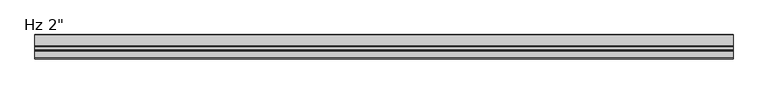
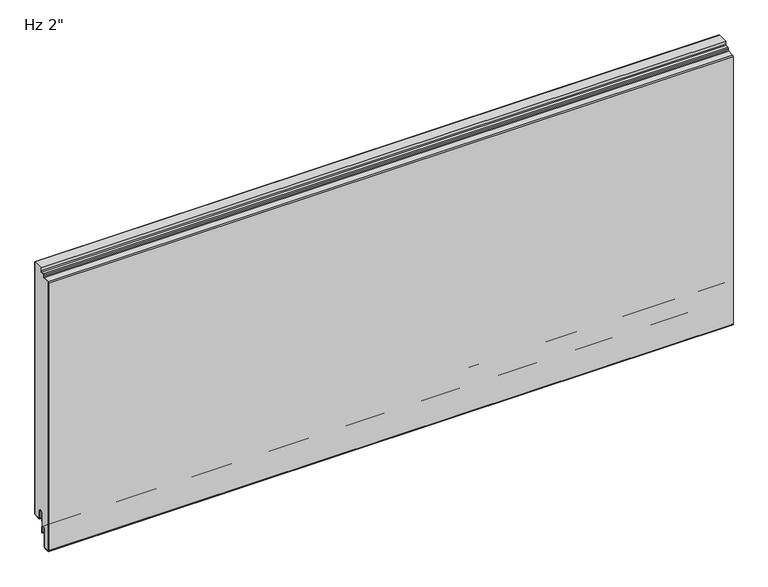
"""IFC4 building model written with IfcOpenShell, lengths in millimetres: plate geometry."""

import ifcopenshell
import ifcopenshell.guid

model = None  # the IFC model being written
_history = None  # IfcOwnerHistory: only IFC2X3 demands one
_inside = {}  # id of a spatial element -> (the spatial element, [elements in it])
_under = {}  # id of a project, library or spatial element -> (it, [spatial elements below it])
_declared = {}  # id of a project -> (the project, [libraries it declares])
_typed = {}  # id of a type object -> (the type object, [elements of that type])
_made_of = {}  # id of a material, layer set ... -> (it, [elements and type objects made of it])


def new_model(schema):
    """Start an empty IFC model of exactly this schema.

    Asked for "IFC4X3", IfcOpenShell would pick the latest addendum, in which some entities
    have other attributes; the version numbers below select the first issue.
    IFC2X3 requires an IfcOwnerHistory on every rooted entity: one is made here for all.
    """
    global model, _history
    if schema == "IFC4X3":
        model = ifcopenshell.file(schema_version=(4, 3, 0, 0))
    else:
        model = ifcopenshell.file(schema=schema)
    _inside.clear()
    _under.clear()
    _declared.clear()
    _typed.clear()
    _made_of.clear()
    _history = None
    if model.schema == "IFC2X3":
        org = make("IfcOrganization", Name="unknown")
        user = make(
            "IfcPersonAndOrganization",
            ThePerson=make("IfcPerson", FamilyName="unknown"),
            TheOrganization=org,
        )
        app = make(
            "IfcApplication",
            ApplicationDeveloper=org,
            Version="unknown",
            ApplicationFullName="unknown",
            ApplicationIdentifier="unknown",
        )
        _history = make(
            "IfcOwnerHistory",
            OwningUser=user,
            OwningApplication=app,
            ChangeAction="ADDED",
            CreationDate=0,
        )
    return model


def make(cls, **values):
    """One entity of the class cls with the attributes given. An attribute that is None is left unset."""
    return model.create_entity(
        cls, **{name: value for name, value in values.items() if value is not None}
    )


def rooted(cls, **values):
    """An entity with a GlobalId (a new one), such as an element, a storey or a relation."""
    return make(cls, GlobalId=ifcopenshell.guid.new(), OwnerHistory=_history, **values)


def si_unit(unit_type, name, prefix=None):
    """IfcSIUnit, for example si_unit("LENGTHUNIT", "METRE", prefix="MILLI")."""
    return make("IfcSIUnit", UnitType=unit_type, Prefix=prefix, Name=name)


def assignment(units):
    """IfcUnitAssignment: the units of a project."""
    return None if units is None else make("IfcUnitAssignment", Units=units)


def point(xyz):
    """IfcCartesianPoint."""
    return None if xyz is None else make("IfcCartesianPoint", Coordinates=xyz)


def direction(xyz):
    """IfcDirection."""
    return None if xyz is None else make("IfcDirection", DirectionRatios=xyz)


def frame(location, z_axis=None, x_axis=None):
    """IfcAxis2Placement3D, a coordinate frame: its origin and axes. An axis left out is left unset."""
    return make(
        "IfcAxis2Placement3D",
        Location=point(location),
        Axis=direction(z_axis),
        RefDirection=direction(x_axis),
    )


def frame_2d(location, x_axis=None):
    """IfcAxis2Placement2D, a coordinate frame in the plane: its origin and x axis."""
    return make(
        "IfcAxis2Placement2D", Location=point(location), RefDirection=direction(x_axis)
    )


def origin():
    """The frame at (0, 0, 0) with its axes left unset."""
    return frame((0.0, 0.0, 0.0))


def place(relative_to, where):
    """IfcLocalPlacement: puts the frame where relative to a parent placement (None: the world)."""
    return make(
        "IfcLocalPlacement", PlacementRelTo=relative_to, RelativePlacement=where
    )


def context(
    kind, dimensions, precision=None, world=None, true_north=None, identifier=None
):
    """IfcGeometricRepresentationContext, for example the 3D "Model" context."""
    return make(
        "IfcGeometricRepresentationContext",
        ContextIdentifier=identifier,
        ContextType=kind,
        CoordinateSpaceDimension=dimensions,
        Precision=precision,
        WorldCoordinateSystem=world,
        TrueNorth=true_north,
    )


def project(units=None, contexts=None):
    """IfcProject with its units and contexts."""
    return rooted(
        "IfcProject",
        Name="project",
        RepresentationContexts=contexts,
        UnitsInContext=assignment(units),
    )


def spatial(cls, under=None, at=None, **own):
    """A site, building, storey or space (cls), placed at a placement, below another one or the project."""
    s = rooted(cls, ObjectPlacement=at, **own)
    if under is not None:
        _under.setdefault(under.id(), (under, []))[1].append(s)
    return s


def polyline(points):
    """IfcPolyline through the points."""
    return make("IfcPolyline", Points=[point(p) for p in points])


def circle_curve(where, radius):
    """IfcCircle in the frame where."""
    return make("IfcCircle", Position=where, Radius=radius)


def trimmed(basis, trim1, trim2, sense, master):
    """IfcTrimmedCurve: the piece of a basis curve between two trims."""
    return make(
        "IfcTrimmedCurve",
        BasisCurve=basis,
        Trim1=trim1,
        Trim2=trim2,
        SenseAgreement=sense,
        MasterRepresentation=master,
    )


def segment(curve, same_sense, transition):
    """IfcCompositeCurveSegment."""
    return make(
        "IfcCompositeCurveSegment",
        Transition=transition,
        SameSense=same_sense,
        ParentCurve=curve,
    )


def composite_curve(segments, self_intersect=None):
    """IfcCompositeCurve: segments joined end to end."""
    return make("IfcCompositeCurve", Segments=segments, SelfIntersect=self_intersect)


def outline(outer, holes=None, kind="AREA"):
    """IfcArbitraryClosedProfileDef: a profile drawn as a closed curve; with holes, ...WithVoids."""
    if holes is None:
        return make("IfcArbitraryClosedProfileDef", ProfileType=kind, OuterCurve=outer)
    return make(
        "IfcArbitraryProfileDefWithVoids",
        ProfileType=kind,
        OuterCurve=outer,
        InnerCurves=holes,
    )


def extrude(swept, where, along, depth):
    """IfcExtrudedAreaSolid: the profile swept, set in the frame where, extruded along a direction by depth."""
    return make(
        "IfcExtrudedAreaSolid",
        SweptArea=swept,
        Position=where,
        ExtrudedDirection=direction(along),
        Depth=depth,
    )


def shape(context_of_items, identifier, shape_type, items):
    """IfcShapeRepresentation: the items that make up one representation, for example the "Body"."""
    return make(
        "IfcShapeRepresentation",
        ContextOfItems=context_of_items,
        RepresentationIdentifier=identifier,
        RepresentationType=shape_type,
        Items=items,
    )


def source(mapping_origin, context_of_items, identifier, shape_type, items):
    """IfcRepresentationMap: a shape defined once, which mapped items show again and again."""
    return make(
        "IfcRepresentationMap",
        MappingOrigin=mapping_origin,
        MappedRepresentation=shape(context_of_items, identifier, shape_type, items),
    )


def transform(
    local_origin,
    x_axis=None,
    y_axis=None,
    z_axis=None,
    scale=None,
    scale2=None,
    scale3=None,
    uniform=True,
):
    """IfcCartesianTransformationOperator3D, or its non-uniform kind. x_axis, y_axis, z_axis: its Axis1, 2, 3."""
    if uniform:
        return make(
            "IfcCartesianTransformationOperator3D",
            Axis1=direction(x_axis),
            Axis2=direction(y_axis),
            LocalOrigin=point(local_origin),
            Scale=scale,
            Axis3=direction(z_axis),
        )
    return make(
        "IfcCartesianTransformationOperator3DnonUniform",
        Axis1=direction(x_axis),
        Axis2=direction(y_axis),
        LocalOrigin=point(local_origin),
        Scale=scale,
        Axis3=direction(z_axis),
        Scale2=scale2,
        Scale3=scale3,
    )


def mapped(mapping_source, mapping_target):
    """IfcMappedItem: shows the shape of a source again, moved by a transform."""
    return make(
        "IfcMappedItem", MappingSource=mapping_source, MappingTarget=mapping_target
    )


def made_of(thing, what):
    """Note that an element or type object is made of a material, layer set ...; save() writes the relation."""
    if what is not None:
        _made_of.setdefault(what.id(), (what, []))[1].append(thing)
    return thing


def element(
    cls,
    number,
    at=None,
    inside=None,
    cuts=None,
    type_object=None,
    material=None,
    context=None,
    identifier="Body",
    shape_type=None,
    held_by="IfcProductDefinitionShape",
    body=None,
    shapes=None,
    **own,
):
    """One element of the class cls, such as IfcWall. Its Tag is "e" and its number.

    at: its placement. inside: the storey or other place that contains it. cuts: it is an
    opening in that element (IfcRelVoidsElement). A single representation is given by context,
    identifier, shape_type and body (its items); several are given by shapes. held_by: the class
    of the entity that holds the representations. save() writes the other relations.
    """
    e = rooted(cls, Tag="e%d" % number, ObjectPlacement=at, **own)
    if body is not None:
        shapes = [shape(context, identifier, shape_type, body)]
    if shapes is not None:
        e.Representation = make(held_by, Representations=shapes)
    if inside is not None:
        _inside.setdefault(inside.id(), (inside, []))[1].append(e)
    if cuts is not None:
        rooted(
            "IfcRelVoidsElement", RelatingBuildingElement=cuts, RelatedOpeningElement=e
        )
    if type_object is not None:
        _typed.setdefault(type_object.id(), (type_object, []))[1].append(e)
    return made_of(e, material)


def aggregate(whole, parts):
    """IfcRelAggregates: a whole, such as a stair, and the parts it consists of."""
    return rooted("IfcRelAggregates", RelatingObject=whole, RelatedObjects=parts)


def save(model, path):
    """Write the relations noted so far, then the file.

    IfcRelAggregates (storeys below a building ...), IfcRelContainedInSpatialStructure (elements
    in a storey), IfcRelDefinesByType, IfcRelAssociatesMaterial and IfcRelDeclares: one each for
    every whole, place, type object, material and project.
    """
    for whole, parts in _under.values():
        aggregate(whole, parts)
    for where, things in _inside.values():
        rooted(
            "IfcRelContainedInSpatialStructure",
            RelatedElements=things,
            RelatingStructure=where,
        )
    for kind, things in _typed.values():
        rooted("IfcRelDefinesByType", RelatedObjects=things, RelatingType=kind)
    for what, things in _made_of.values():
        rooted("IfcRelAssociatesMaterial", RelatedObjects=things, RelatingMaterial=what)
    for by, libraries in _declared.values():
        rooted("IfcRelDeclares", RelatingContext=by, RelatedDefinitions=libraries)
    model.write(path)


def plate_fb6e7e47(model_context):
    return source(origin(), model_context, "Body", "SweptSolid", [
        extrude(outline(composite_curve([segment(polyline([(-22.8125, 564.5620957), (-22.8125, 571.2), (-1.0, 571.2), (-1.0, 3.175)]), True, "CONTINUOUS"), segment(trimmed(circle_curve(frame_2d((-2.38125, 3.175)), 1.38125), [point((-1.0, 3.175))], [point((-2.38125, 1.79375))], False, "CARTESIAN"), True, "CONTINUOUS"), segment(polyline([(-2.38125, 1.79375), (-15.08125, 1.79375)]), True, "CONTINUOUS"), segment(trimmed(circle_curve(frame_2d((-15.08125, 3.175)), 1.38125), [point((-15.08125, 1.79375))], [point((-16.4625, 3.175))], False, "CARTESIAN"), True, "CONTINUOUS"), segment(polyline([(-16.4625, 3.175), (-16.4625, 19.05)]), True, "CONTINUOUS"), segment(trimmed(circle_curve(frame_2d((-21.43125, 19.05)), 4.96875), [point((-16.4625, 19.05))], [point((-26.4, 19.05))], True, "CARTESIAN"), True, "CONTINUOUS"), segment(polyline([(-26.4, 19.05), (-26.4, -6.9375), (-30.95625, -6.9375)]), True, "CONTINUOUS"), segment(trimmed(circle_curve(frame_2d((-30.95625, -11.90625)), 4.96875), [point((-30.95625, -6.9375))], [point((-35.925, -11.90625))], True, "CARTESIAN"), True, "CONTINUOUS"), segment(polyline([(-35.925, -11.90625), (-35.925, -50.0895546)]), True, "CONTINUOUS"), segment(trimmed(circle_curve(frame_2d((-37.30625, -50.0895546)), 1.38125), [point((-35.925, -50.0895546))], [point((-37.233961, -51.4689117))], False, "CARTESIAN"), True, "CONTINUOUS"), segment(polyline([(-37.233961, -51.4689117), (-48.346461, -52.0512931)]), True, "CONTINUOUS"), segment(trimmed(circle_curve(frame_2d((-48.41875, -50.6719361)), 1.38125), [point((-48.346461, -52.0512931))], [point((-49.8, -50.6719361))], False, "CARTESIAN"), True, "CONTINUOUS"), segment(polyline([(-49.8, -50.6719361), (-49.8, 552.5715281)]), True, "CONTINUOUS"), segment(trimmed(circle_curve(frame_2d((-48.41875, 552.5715281)), 1.38125), [point((-49.8, 552.5715281))], [point((-48.491039, 553.9508852))], False, "CARTESIAN"), True, "CONTINUOUS"), segment(polyline([(-48.491039, 553.9508852), (-34.7895807, 554.6689482)]), True, "CONTINUOUS"), segment(trimmed(circle_curve(frame_2d((-34.925, 557.2529021)), 2.5875), [point((-34.7895807, 554.6689482))], [point((-32.3375, 557.2529021))], True, "CARTESIAN"), True, "CONTINUOUS"), segment(polyline([(-32.3375, 557.2529021), (-32.3375, 560.2967085)]), True, "CONTINUOUS"), segment(trimmed(circle_curve(frame_2d((-30.95625, 560.2967085)), 1.38125), [point((-32.3375, 560.2967085))], [point((-31.028539, 561.6760655))], False, "CARTESIAN"), True, "CONTINUOUS"), segment(polyline([(-31.028539, 561.6760655), (-25.2645807, 561.9781418)]), True, "CONTINUOUS"), segment(trimmed(circle_curve(frame_2d((-25.4, 564.5620957)), 2.5875), [point((-25.2645807, 561.9781418))], [point((-22.8125, 564.5620957))], True, "CARTESIAN"), True, "CONTINUOUS")], self_intersect=False)), frame((-730.0, 0.0, 0.0), z_axis=(1.0, 0.0, 0.0), x_axis=(0.0, 1.0, 0.0)), (0.0, 0.0, 1.0), 1460.0),
        extrude(outline(composite_curve([segment(polyline([(-25.4, 0.79375), (-26.4, 0.79375), (-26.4, 19.05)]), True, "CONTINUOUS"), segment(trimmed(circle_curve(frame_2d((-21.43125, 19.05)), 4.96875), [point((-26.4, 19.05))], [point((-16.4625, 19.05))], False, "CARTESIAN"), True, "CONTINUOUS"), segment(polyline([(-16.4625, 19.05), (-16.4625, 3.175)]), True, "CONTINUOUS"), segment(trimmed(circle_curve(frame_2d((-15.08125, 3.175)), 1.38125), [point((-16.4625, 3.175))], [point((-15.08125, 1.79375))], True, "CARTESIAN"), True, "CONTINUOUS"), segment(polyline([(-15.08125, 1.79375), (-2.38125, 1.79375)]), True, "CONTINUOUS"), segment(trimmed(circle_curve(frame_2d((-2.38125, 3.175)), 1.38125), [point((-2.38125, 1.79375))], [point((-1.0, 3.175))], True, "CARTESIAN"), True, "CONTINUOUS"), segment(polyline([(-1.0, 3.175), (-1.0, 571.2), (0.0, 571.2), (0.0, 3.175)]), True, "CONTINUOUS"), segment(trimmed(circle_curve(frame_2d((-2.38125, 3.175)), 2.38125), [point((0.0, 3.175))], [point((-2.38125, 0.79375))], False, "CARTESIAN"), True, "CONTINUOUS"), segment(polyline([(-2.38125, 0.79375), (-15.08125, 0.79375)]), True, "CONTINUOUS"), segment(trimmed(circle_curve(frame_2d((-15.08125, 3.175)), 2.38125), [point((-15.08125, 0.79375))], [point((-17.4625, 3.175))], False, "CARTESIAN"), True, "CONTINUOUS"), segment(polyline([(-17.4625, 3.175), (-17.4625, 19.05)]), True, "CONTINUOUS"), segment(trimmed(circle_curve(frame_2d((-21.43125, 19.05)), 3.96875), [point((-17.4625, 19.05))], [point((-25.4, 19.05))], True, "CARTESIAN"), True, "CONTINUOUS"), segment(polyline([(-25.4, 19.05), (-25.4, 0.79375)]), True, "CONTINUOUS")], self_intersect=False)), frame((-730.0, 0.0, 0.0), z_axis=(1.0, 0.0, 0.0), x_axis=(0.0, 1.0, 0.0)), (0.0, 0.0, 1.0), 1460.0),
        extrude(outline(composite_curve([segment(trimmed(circle_curve(frame_2d((-26.19375, -23.2314549)), 0.79375), [point((-25.4, -23.2314549))], [point((-26.9875, -23.2314549))], False, "CARTESIAN"), True, "CONTINUOUS"), segment(polyline([(-26.9875, -23.2314549), (-26.9875, -11.9205174)]), True, "CONTINUOUS"), segment(trimmed(circle_curve(frame_2d((-30.95625, -11.9205174)), 3.96875), [point((-26.9875, -11.9205174))], [point((-34.925, -11.9205174))], True, "CARTESIAN"), True, "CONTINUOUS"), segment(polyline([(-34.925, -11.9205174), (-34.925, -50.1038221)]), True, "CONTINUOUS"), segment(trimmed(circle_curve(frame_2d((-37.30625, -50.1038221)), 2.38125), [point((-34.925, -50.1038221))], [point((-37.181625, -52.4818086))], False, "CARTESIAN"), True, "CONTINUOUS"), segment(polyline([(-37.181625, -52.4818086), (-48.294125, -53.0641901)]), True, "CONTINUOUS"), segment(trimmed(circle_curve(frame_2d((-48.41875, -50.6862035)), 2.38125), [point((-48.294125, -53.0641901))], [point((-50.8, -50.6862035))], False, "CARTESIAN"), True, "CONTINUOUS"), segment(polyline([(-50.8, -50.6862035), (-50.8, 552.5572607)]), True, "CONTINUOUS"), segment(trimmed(circle_curve(frame_2d((-48.41875, 552.5572607)), 2.38125), [point((-50.8, 552.5572607))], [point((-48.543375, 554.9352473))], False, "CARTESIAN"), True, "CONTINUOUS"), segment(polyline([(-48.543375, 554.9352473), (-34.8419167, 555.6533103)]), True, "CONTINUOUS"), segment(trimmed(circle_curve(frame_2d((-34.925, 557.2386347)), 1.5875), [point((-34.8419167, 555.6533103))], [point((-33.3375, 557.2386347))], True, "CARTESIAN"), True, "CONTINUOUS"), segment(polyline([(-33.3375, 557.2386347), (-33.3375, 560.2824411)]), True, "CONTINUOUS"), segment(trimmed(circle_curve(frame_2d((-30.95625, 560.2824411)), 2.38125), [point((-33.3375, 560.2824411))], [point((-31.080875, 562.6604276))], False, "CARTESIAN"), True, "CONTINUOUS"), segment(polyline([(-31.080875, 562.6604276), (-25.3169167, 562.9625039)]), True, "CONTINUOUS"), segment(trimmed(circle_curve(frame_2d((-25.4, 564.5478283)), 1.5875), [point((-25.3169167, 562.9625039))], [point((-23.8125, 564.5478283))], True, "CARTESIAN"), True, "CONTINUOUS"), segment(polyline([(-23.8125, 564.5478283), (-23.8125, 571.2), (-22.8125, 571.2), (-22.8125, 564.5478283)]), True, "CONTINUOUS"), segment(trimmed(circle_curve(frame_2d((-25.4, 564.5478283)), 2.5875), [point((-22.8125, 564.5478283))], [point((-25.2645807, 561.9638744))], False, "CARTESIAN"), True, "CONTINUOUS"), segment(polyline([(-25.2645807, 561.9638744), (-31.028539, 561.6617981)]), True, "CONTINUOUS"), segment(trimmed(circle_curve(frame_2d((-30.95625, 560.2824411)), 1.38125), [point((-31.028539, 561.6617981))], [point((-32.3375, 560.2824411))], True, "CARTESIAN"), True, "CONTINUOUS"), segment(polyline([(-32.3375, 560.2824411), (-32.3375, 557.2386347)]), True, "CONTINUOUS"), segment(trimmed(circle_curve(frame_2d((-34.925, 557.2386347)), 2.5875), [point((-32.3375, 557.2386347))], [point((-34.7895807, 554.6546807))], False, "CARTESIAN"), True, "CONTINUOUS"), segment(polyline([(-34.7895807, 554.6546807), (-48.491039, 553.9366177)]), True, "CONTINUOUS"), segment(trimmed(circle_curve(frame_2d((-48.41875, 552.5572607)), 1.38125), [point((-48.491039, 553.9366177))], [point((-49.8, 552.5572607))], True, "CARTESIAN"), True, "CONTINUOUS"), segment(polyline([(-49.8, 552.5572607), (-49.8, -50.6862035)]), True, "CONTINUOUS"), segment(trimmed(circle_curve(frame_2d((-48.41875, -50.6862035)), 1.38125), [point((-49.8, -50.6862035))], [point((-48.346461, -52.0655606))], True, "CARTESIAN"), True, "CONTINUOUS"), segment(polyline([(-48.346461, -52.0655606), (-37.233961, -51.4831791)]), True, "CONTINUOUS"), segment(trimmed(circle_curve(frame_2d((-37.30625, -50.1038221)), 1.38125), [point((-37.233961, -51.4831791))], [point((-35.925, -50.1038221))], True, "CARTESIAN"), True, "CONTINUOUS"), segment(polyline([(-35.925, -50.1038221), (-35.925, -11.9205174)]), True, "CONTINUOUS"), segment(trimmed(circle_curve(frame_2d((-30.95625, -11.9205174)), 4.96875), [point((-35.925, -11.9205174))], [point((-25.9875, -11.9205174))], False, "CARTESIAN"), True, "CONTINUOUS"), segment(polyline([(-25.9875, -11.9205174), (-26.19375, -13.5080174), (-25.4, -13.5080174), (-25.4, -23.2314549)]), True, "CONTINUOUS")], self_intersect=False)), frame((-730.0, 0.0, 0.0), z_axis=(1.0, 0.0, 0.0), x_axis=(0.0, 1.0, 0.0)), (0.0, 0.0, 1.0), 1460.0),
    ])


if __name__ == "__main__":
    model = new_model("IFC4")
    model_context = context("Model", 3, world=origin())
    ifc_project = project(units=[si_unit("LENGTHUNIT", "METRE", prefix="MILLI")], contexts=[model_context])
    site = spatial("IfcSite", under=ifc_project)
    building = spatial("IfcBuilding", under=site)
    placement = place(None, origin())
    plate_shape = plate_fb6e7e47(model_context)
    element("IfcPlate", 1, ObjectType="KIP-24-DWTR-R19-CP-Hz-F : Hz 2\"", at=placement, inside=building, context=model_context, shape_type="MappedRepresentation", body=[
        mapped(plate_shape, transform((0.0, 0.0, 0.0), x_axis=(1.0, 0.0, 0.0), y_axis=(0.0, 1.0, 0.0), z_axis=(0.0, 0.0, 1.0))),
    ])
    save(model, "model.ifc")
